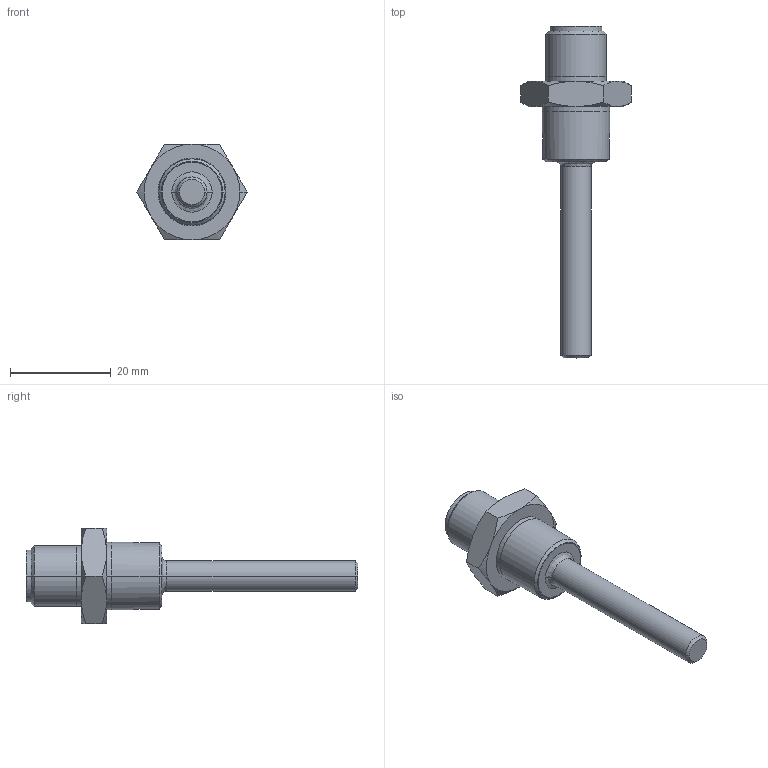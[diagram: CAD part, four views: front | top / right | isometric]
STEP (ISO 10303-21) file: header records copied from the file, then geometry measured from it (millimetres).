
FILE_DESCRIPTION((''),'2;1');
FILE_NAME('ST01589_1-4NPT','2016-01-27T',('bacap'),(''),'CREO PARAMETRIC BY PTC INC, 2015290','CREO PARAMETRIC BY PTC INC, 2015290','');
FILE_SCHEMA(('AUTOMOTIVE_DESIGN { 1 0 10303 214 1 1 1 1 }'));
Length unit declared in the file: millimetre
Products named in the file (1): ST01589_1-4NPT
Bounding box: 21.94 x 66 x 19 mm (x, y, z)
Volume: 4506.2 mm3; surface area: 4352.8 mm2
Topology: 1 solids, 5 shells, 122 faces, 286 edges, 174 vertices
Faces by surface type: bspline 122
Entity records: 5552 total; most frequent: CARTESIAN_POINT 2578, ORIENTED_EDGE 548, DIRECTION 370, EDGE_CURVE 278, VERTEX_POINT 174, AXIS2_PLACEMENT_3D 139, EDGE_LOOP 138, CIRCLE 138
